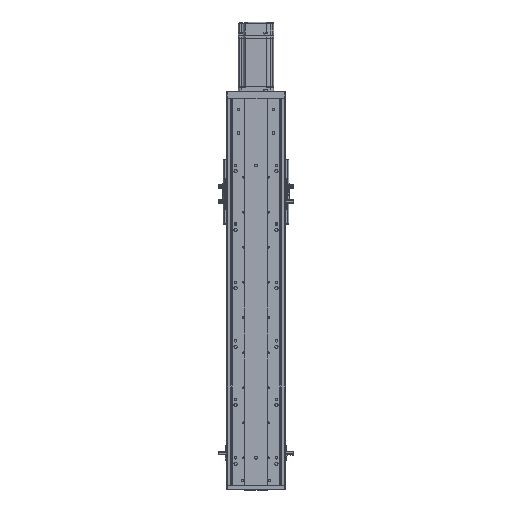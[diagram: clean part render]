
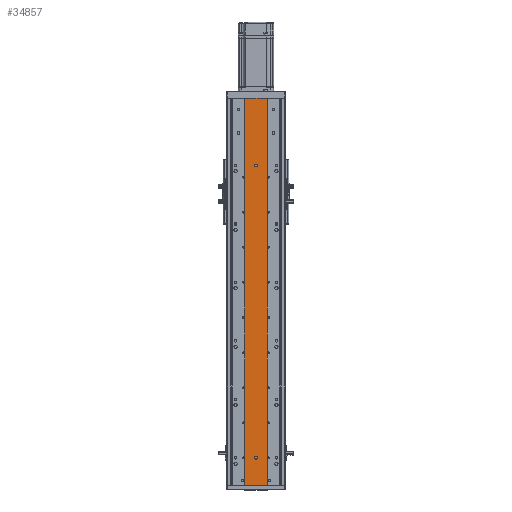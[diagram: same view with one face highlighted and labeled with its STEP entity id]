
A CAD part, top view. The second image highlights one B-rep face of the part: STEP entity #34857.
In plain terms, the highlighted planar face has unit normal (0, 0, 1).
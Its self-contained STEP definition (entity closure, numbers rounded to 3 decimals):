
#100 = CARTESIAN_POINT ( 'NONE',  ( -10623.579, 47., -17040.86 ) ) ;
#122 = CARTESIAN_POINT ( 'NONE',  ( -10628.579, 547., -17040.86 ) ) ;
#135 = CARTESIAN_POINT ( 'NONE',  ( -10623.579, 547., -17040.86 ) ) ;
#843 = PLANE ( 'NONE',  #13730 ) ;
#859 = CARTESIAN_POINT ( 'NONE',  ( -10645.079, 662., -17040.86 ) ) ;
#891 = DIRECTION ( 'NONE',  ( -1., 0., 0. ) ) ;
#892 = DIRECTION ( 'NONE',  ( 0., 0., -1. ) ) ;
#1191 = CARTESIAN_POINT ( 'NONE',  ( -10607.079, 662., -17040.86 ) ) ;
#1193 = DIRECTION ( 'NONE',  ( 1., 0., 0. ) ) ;
#1203 = DIRECTION ( 'NONE',  ( 0., 0., -1. ) ) ;
#1204 = DIRECTION ( 'NONE',  ( 0., -1., 0. ) ) ;
#1205 = CARTESIAN_POINT ( 'NONE',  ( -10626.079, 547., -17040.86 ) ) ;
#1214 = CARTESIAN_POINT ( 'NONE',  ( -10645.079, 0., -17040.86 ) ) ;
#1216 = DIRECTION ( 'NONE',  ( -1., 0., 0. ) ) ;
#1295 = CARTESIAN_POINT ( 'NONE',  ( -10626.079, 47., -17040.86 ) ) ;
#1296 = DIRECTION ( 'NONE',  ( 0., 0., -1. ) ) ;
#1297 = DIRECTION ( 'NONE',  ( -1., 0., 0. ) ) ;
#1326 = CARTESIAN_POINT ( 'NONE',  ( -10645.079, 662., -17040.86 ) ) ;
#1328 = DIRECTION ( 'NONE',  ( 1., 0., 0. ) ) ;
#8537 = CIRCLE ( 'NONE', #13050, 2.5 ) ;
#8542 = CIRCLE ( 'NONE', #13059, 2.5 ) ;
#8819 = EDGE_CURVE ( 'NONE', #33724, #33780, #8537, .T. ) ;
#8829 = EDGE_CURVE ( 'NONE', #33774, #25003, #8542, .T. ) ;
#9610 = EDGE_CURVE ( 'NONE', #30037, #30099, #17693, .T. ) ;
#9660 = EDGE_CURVE ( 'NONE', #30097, #30014, #17775, .T. ) ;
#9664 = EDGE_CURVE ( 'NONE', #33780, #33724, #17856, .T. ) ;
#9669 = EDGE_CURVE ( 'NONE', #30099, #30014, #17841, .T. ) ;
#9699 = EDGE_CURVE ( 'NONE', #25003, #33774, #17842, .T. ) ;
#9711 = EDGE_CURVE ( 'NONE', #30037, #30097, #17875, .T. ) ;
#10613 = EDGE_LOOP ( 'NONE', ( #30741, #30740 ) ) ;
#10631 = EDGE_LOOP ( 'NONE', ( #30658, #30679 ) ) ;
#10657 = EDGE_LOOP ( 'NONE', ( #30715, #30674, #30664, #30701 ) ) ;
#11575 = CARTESIAN_POINT ( 'NONE',  ( -10628.579, 47., -17040.86 ) ) ;
#12068 = CARTESIAN_POINT ( 'NONE',  ( -10607.079, 0., -17040.86 ) ) ;
#12147 = CARTESIAN_POINT ( 'NONE',  ( -10645.079, 662., -17040.86 ) ) ;
#12171 = CARTESIAN_POINT ( 'NONE',  ( -10607.079, 662., -17040.86 ) ) ;
#12197 = CARTESIAN_POINT ( 'NONE',  ( -10645.079, 0., -17040.86 ) ) ;
#13050 = AXIS2_PLACEMENT_3D ( 'NONE', #14699, #14701, #14708 ) ;
#13059 = AXIS2_PLACEMENT_3D ( 'NONE', #14757, #14754, #14770 ) ;
#13249 = AXIS2_PLACEMENT_3D ( 'NONE', #1205, #1203, #1216 ) ;
#13257 = AXIS2_PLACEMENT_3D ( 'NONE', #1295, #1296, #1297 ) ;
#13730 = AXIS2_PLACEMENT_3D ( 'NONE', #859, #892, #891 ) ;
#14699 = CARTESIAN_POINT ( 'NONE',  ( -10626.079, 547., -17040.86 ) ) ;
#14701 = DIRECTION ( 'NONE',  ( 0., 0., -1. ) ) ;
#14708 = DIRECTION ( 'NONE',  ( -1., 0., 0. ) ) ;
#14754 = DIRECTION ( 'NONE',  ( 0., 0., -1. ) ) ;
#14757 = CARTESIAN_POINT ( 'NONE',  ( -10626.079, 47., -17040.86 ) ) ;
#14770 = DIRECTION ( 'NONE',  ( -1., 0., 0. ) ) ;
#15342 = FACE_BOUND ( 'NONE', #10631, .T. ) ;
#15394 = FACE_BOUND ( 'NONE', #10613, .T. ) ;
#15396 = FACE_OUTER_BOUND ( 'NONE', #10657, .T. ) ;
#17693 = LINE ( 'NONE', #38238, #17717 ) ;
#17717 = VECTOR ( 'NONE', #38214, 1000. ) ;
#17775 = LINE ( 'NONE', #1191, #17777 ) ;
#17777 = VECTOR ( 'NONE', #1204, 1000. ) ;
#17841 = LINE ( 'NONE', #1214, #17865 ) ;
#17842 = CIRCLE ( 'NONE', #13257, 2.5 ) ;
#17856 = CIRCLE ( 'NONE', #13249, 2.5 ) ;
#17865 = VECTOR ( 'NONE', #1193, 1000. ) ;
#17875 = LINE ( 'NONE', #1326, #17912 ) ;
#17912 = VECTOR ( 'NONE', #1328, 1000. ) ;
#25003 = VERTEX_POINT ( 'NONE', #11575 ) ;
#30014 = VERTEX_POINT ( 'NONE', #12068 ) ;
#30037 = VERTEX_POINT ( 'NONE', #12147 ) ;
#30097 = VERTEX_POINT ( 'NONE', #12171 ) ;
#30099 = VERTEX_POINT ( 'NONE', #12197 ) ;
#30658 = ORIENTED_EDGE ( 'NONE', *, *, #8829, .T. ) ;
#30664 = ORIENTED_EDGE ( 'NONE', *, *, #9711, .F. ) ;
#30674 = ORIENTED_EDGE ( 'NONE', *, *, #9660, .F. ) ;
#30679 = ORIENTED_EDGE ( 'NONE', *, *, #9699, .T. ) ;
#30701 = ORIENTED_EDGE ( 'NONE', *, *, #9610, .T. ) ;
#30715 = ORIENTED_EDGE ( 'NONE', *, *, #9669, .T. ) ;
#30740 = ORIENTED_EDGE ( 'NONE', *, *, #9664, .T. ) ;
#30741 = ORIENTED_EDGE ( 'NONE', *, *, #8819, .T. ) ;
#33724 = VERTEX_POINT ( 'NONE', #135 ) ;
#33774 = VERTEX_POINT ( 'NONE', #100 ) ;
#33780 = VERTEX_POINT ( 'NONE', #122 ) ;
#34857 = ADVANCED_FACE ( 'NONE', ( #15394, #15342, #15396 ), #843, .F. ) ;
#38214 = DIRECTION ( 'NONE',  ( 0., -1., 0. ) ) ;
#38238 = CARTESIAN_POINT ( 'NONE',  ( -10645.079, 662., -17040.86 ) ) ;
